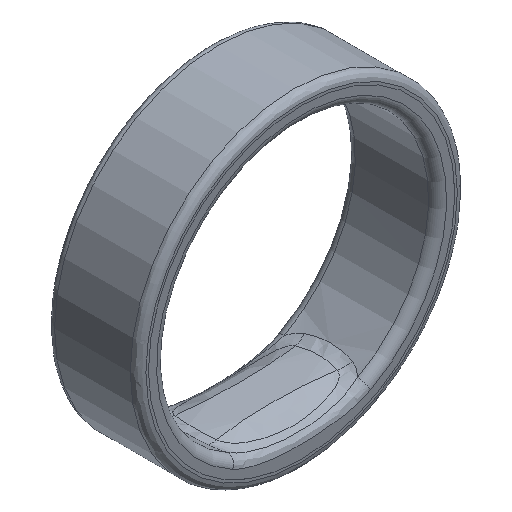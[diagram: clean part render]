
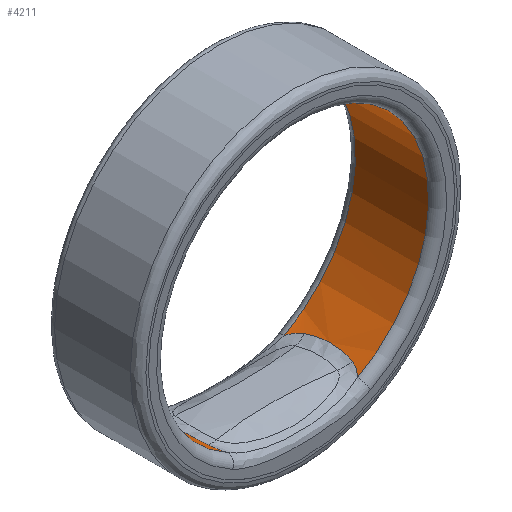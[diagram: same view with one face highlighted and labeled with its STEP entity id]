
A CAD part, isometric view. The second image highlights one B-rep face of the part: STEP entity #4211.
In plain terms, the highlighted cylindrical face has radius 12.076 mm (diameter 24.152 mm), a partial arc.
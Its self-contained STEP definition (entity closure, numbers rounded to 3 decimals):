
#545=CYLINDRICAL_SURFACE('',#4465,12.076);
#634=FACE_OUTER_BOUND('',#870,.T.);
#870=EDGE_LOOP('',(#2752,#2753,#2754,#2755,#2756,#2757,#2758,#2759));
#1105=B_SPLINE_CURVE_WITH_KNOTS('',3,(#5335,#5336,#5337,#5338,#5339,#5340,
#5341,#5342,#5343),.UNSPECIFIED.,.F.,.F.,(4,2,1,2,4),(-0.13,
-0.122,-0.061,0.,0.001),
 .UNSPECIFIED.);
#1114=B_SPLINE_CURVE_WITH_KNOTS('',3,(#5434,#5435,#5436,#5437,#5438,#5439,
#5440,#5441,#5442,#5443,#5444,#5445,#5446),.UNSPECIFIED.,.F.,.F.,(4,2,1,
1,1,1,1,2,4),(-1.326,-1.326,-1.318,-1.311,
-1.295,-1.265,-1.234,-1.204,
-1.195),.UNSPECIFIED.);
#1119=B_SPLINE_CURVE_WITH_KNOTS('',3,(#5672,#5673,#5674,#5675,#5676,#5677,
#5678),.UNSPECIFIED.,.F.,.F.,(4,2,1,4),(-0.13,-0.122,
-0.061,0.),.UNSPECIFIED.);
#1126=B_SPLINE_CURVE_WITH_KNOTS('',3,(#5740,#5741,#5742,#5743,#5744,#5745,
#5746,#5747,#5748),.UNSPECIFIED.,.F.,.F.,(4,2,1,2,4),(-1.326,
-1.326,-1.265,-1.204,-1.196),
 .UNSPECIFIED.);
#1129=B_SPLINE_CURVE_WITH_KNOTS('',3,(#5822,#5823,#5824,#5825,#5826,#5827,
#5828,#5829,#5830,#5831,#5832,#5833,#5834),.UNSPECIFIED.,.F.,.F.,(4,2,1,
1,1,1,1,2,4),(-0.437,-0.432,-0.411,
-0.39,-0.349,-0.265,-0.182,
-0.015,-0.009),.UNSPECIFIED.);
#1131=B_SPLINE_CURVE_WITH_KNOTS('',3,(#5894,#5895,#5896,#5897,#5898,#5899,
#5900,#5901,#5902,#5903,#5904,#5905,#5906),.UNSPECIFIED.,.F.,.F.,(4,2,1,
1,1,1,1,2,4),(-0.438,-0.432,-0.411,
-0.39,-0.349,-0.265,-0.182,
-0.015,-0.009),.UNSPECIFIED.);
#1482=CIRCLE('',#4452,12.076);
#1488=CIRCLE('',#4460,12.076);
#1510=VERTEX_POINT('',#5135);
#1513=VERTEX_POINT('',#5153);
#1516=VERTEX_POINT('',#5334);
#1525=VERTEX_POINT('',#5411);
#1527=VERTEX_POINT('',#5520);
#1530=VERTEX_POINT('',#5538);
#1533=VERTEX_POINT('',#5671);
#1540=VERTEX_POINT('',#5726);
#1978=EDGE_CURVE('',#1510,#1513,#1482,.T.);
#1980=EDGE_CURVE('',#1513,#1516,#1105,.T.);
#1990=EDGE_CURVE('',#1525,#1510,#1114,.T.);
#1998=EDGE_CURVE('',#1527,#1530,#1488,.T.);
#2000=EDGE_CURVE('',#1530,#1533,#1119,.T.);
#2008=EDGE_CURVE('',#1540,#1527,#1126,.T.);
#2012=EDGE_CURVE('',#1516,#1540,#1129,.T.);
#2014=EDGE_CURVE('',#1533,#1525,#1131,.T.);
#2752=ORIENTED_EDGE('',*,*,#1978,.F.);
#2753=ORIENTED_EDGE('',*,*,#1990,.F.);
#2754=ORIENTED_EDGE('',*,*,#2014,.F.);
#2755=ORIENTED_EDGE('',*,*,#2000,.F.);
#2756=ORIENTED_EDGE('',*,*,#1998,.F.);
#2757=ORIENTED_EDGE('',*,*,#2008,.F.);
#2758=ORIENTED_EDGE('',*,*,#2012,.F.);
#2759=ORIENTED_EDGE('',*,*,#1980,.F.);
#4211=ADVANCED_FACE('',(#634),#545,.F.);
#4452=AXIS2_PLACEMENT_3D('',#5180,#4578,#4579);
#4460=AXIS2_PLACEMENT_3D('',#5565,#4594,#4595);
#4465=AXIS2_PLACEMENT_3D('',#6198,#4604,#4605);
#4578=DIRECTION('center_axis',(0.,-1.,0.));
#4579=DIRECTION('ref_axis',(0.,0.,1.));
#4594=DIRECTION('center_axis',(0.,1.,0.));
#4595=DIRECTION('ref_axis',(0.,0.,1.));
#4604=DIRECTION('center_axis',(0.,1.,0.));
#4605=DIRECTION('ref_axis',(0.,0.,
1.));
#5135=CARTESIAN_POINT('',(5.183,3.25,-11.177));
#5153=CARTESIAN_POINT('',(-6.316,3.25,-11.177));
#5180=CARTESIAN_POINT('Origin',(-0.566,3.25,-0.557));
#5334=CARTESIAN_POINT('',(-6.983,2.116,-10.788));
#5335=CARTESIAN_POINT('Ctrl Pts',(-6.316,3.25,-11.177));
#5336=CARTESIAN_POINT('Ctrl Pts',(-6.337,3.229,-11.165));
#5337=CARTESIAN_POINT('Ctrl Pts',(-6.359,3.207,-11.154));
#5338=CARTESIAN_POINT('Ctrl Pts',(-6.524,3.035,-11.063));
#5339=CARTESIAN_POINT('Ctrl Pts',(-6.774,2.704,-10.918));
#5340=CARTESIAN_POINT('Ctrl Pts',(-6.93,2.32,-10.821));
#5341=CARTESIAN_POINT('Ctrl Pts',(-6.982,2.121,-10.788));
#5342=CARTESIAN_POINT('Ctrl Pts',(-6.983,2.118,-10.788));
#5343=CARTESIAN_POINT('Ctrl Pts',(-6.983,2.116,-10.788));
#5411=CARTESIAN_POINT('',(5.849,2.12,-10.788));
#5434=CARTESIAN_POINT('Ctrl Pts',(5.849,2.12,-10.788));
#5435=CARTESIAN_POINT('Ctrl Pts',(5.849,2.121,-10.788));
#5436=CARTESIAN_POINT('Ctrl Pts',(5.849,2.123,-10.789));
#5437=CARTESIAN_POINT('Ctrl Pts',(5.842,2.148,-10.793));
#5438=CARTESIAN_POINT('Ctrl Pts',(5.828,2.198,-10.801));
#5439=CARTESIAN_POINT('Ctrl Pts',(5.798,2.295,-10.821));
#5440=CARTESIAN_POINT('Ctrl Pts',(5.735,2.464,-10.859));
#5441=CARTESIAN_POINT('Ctrl Pts',(5.623,2.695,-10.927));
#5442=CARTESIAN_POINT('Ctrl Pts',(5.453,2.953,-11.027));
#5443=CARTESIAN_POINT('Ctrl Pts',(5.317,3.113,-11.104));
#5444=CARTESIAN_POINT('Ctrl Pts',(5.224,3.21,-11.155));
#5445=CARTESIAN_POINT('Ctrl Pts',(5.204,3.23,-11.166));
#5446=CARTESIAN_POINT('Ctrl Pts',(5.183,3.25,-11.177));
#5520=CARTESIAN_POINT('',(-6.321,-3.25,-11.174));
#5538=CARTESIAN_POINT('',(5.188,-3.25,-11.174));
#5565=CARTESIAN_POINT('Origin',(-0.566,-3.25,-0.557));
#5671=CARTESIAN_POINT('',(5.848,-2.129,-10.789));
#5672=CARTESIAN_POINT('Ctrl Pts',(5.188,-3.25,-11.174));
#5673=CARTESIAN_POINT('Ctrl Pts',(5.207,-3.232,-11.164));
#5674=CARTESIAN_POINT('Ctrl Pts',(5.225,-3.213,-11.154));
#5675=CARTESIAN_POINT('Ctrl Pts',(5.39,-3.042,-11.063));
#5676=CARTESIAN_POINT('Ctrl Pts',(5.637,-2.714,-10.921));
#5677=CARTESIAN_POINT('Ctrl Pts',(5.799,-2.325,-10.82));
#5678=CARTESIAN_POINT('Ctrl Pts',(5.848,-2.129,-10.789));
#5726=CARTESIAN_POINT('',(-6.982,-2.124,-10.788));
#5740=CARTESIAN_POINT('Ctrl Pts',(-6.982,-2.124,-10.788));
#5741=CARTESIAN_POINT('Ctrl Pts',(-6.982,-2.126,-10.788));
#5742=CARTESIAN_POINT('Ctrl Pts',(-6.982,-2.127,-10.789));
#5743=CARTESIAN_POINT('Ctrl Pts',(-6.93,-2.326,-10.82));
#5744=CARTESIAN_POINT('Ctrl Pts',(-6.774,-2.707,-10.918));
#5745=CARTESIAN_POINT('Ctrl Pts',(-6.526,-3.038,-11.061));
#5746=CARTESIAN_POINT('Ctrl Pts',(-6.361,-3.21,-11.153));
#5747=CARTESIAN_POINT('Ctrl Pts',(-6.341,-3.23,-11.164));
#5748=CARTESIAN_POINT('Ctrl Pts',(-6.321,-3.25,-11.174));
#5822=CARTESIAN_POINT('Ctrl Pts',(-6.983,2.116,-10.788));
#5823=CARTESIAN_POINT('Ctrl Pts',(-6.988,2.099,-10.785));
#5824=CARTESIAN_POINT('Ctrl Pts',(-6.992,2.082,-10.782));
#5825=CARTESIAN_POINT('Ctrl Pts',(-7.013,1.998,-10.769));
#5826=CARTESIAN_POINT('Ctrl Pts',(-7.045,1.862,-10.748));
#5827=CARTESIAN_POINT('Ctrl Pts',(-7.103,1.59,-10.712));
#5828=CARTESIAN_POINT('Ctrl Pts',(-7.186,1.108,-10.658));
#5829=CARTESIAN_POINT('Ctrl Pts',(-7.252,0.412,-10.614));
#5830=CARTESIAN_POINT('Ctrl Pts',(-7.252,-0.701,
-10.614));
#5831=CARTESIAN_POINT('Ctrl Pts',(-7.132,-1.531,-10.694));
#5832=CARTESIAN_POINT('Ctrl Pts',(-6.992,-2.088,-10.782));
#5833=CARTESIAN_POINT('Ctrl Pts',(-6.987,-2.106,-10.785));
#5834=CARTESIAN_POINT('Ctrl Pts',(-6.982,-2.124,-10.788));
#5894=CARTESIAN_POINT('Ctrl Pts',(5.848,-2.129,-10.789));
#5895=CARTESIAN_POINT('Ctrl Pts',(5.853,-2.109,-10.786));
#5896=CARTESIAN_POINT('Ctrl Pts',(5.858,-2.09,-10.783));
#5897=CARTESIAN_POINT('Ctrl Pts',(5.88,-2.003,-10.769));
#5898=CARTESIAN_POINT('Ctrl Pts',(5.912,-1.868,-10.748));
#5899=CARTESIAN_POINT('Ctrl Pts',(5.97,-1.595,-10.712));
#5900=CARTESIAN_POINT('Ctrl Pts',(6.053,-1.113,-10.658));
#5901=CARTESIAN_POINT('Ctrl Pts',(6.119,-0.417,-10.614));
#5902=CARTESIAN_POINT('Ctrl Pts',(6.119,0.696,-10.614));
#5903=CARTESIAN_POINT('Ctrl Pts',(5.999,1.526,-10.694));
#5904=CARTESIAN_POINT('Ctrl Pts',(5.859,2.084,-10.782));
#5905=CARTESIAN_POINT('Ctrl Pts',(5.854,2.102,-10.785));
#5906=CARTESIAN_POINT('Ctrl Pts',(5.849,2.12,-10.788));
#6198=CARTESIAN_POINT('Origin',(-0.566,4.244,-0.557));
